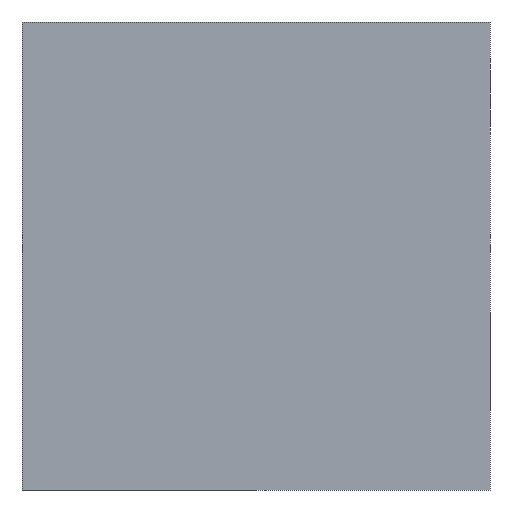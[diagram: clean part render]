
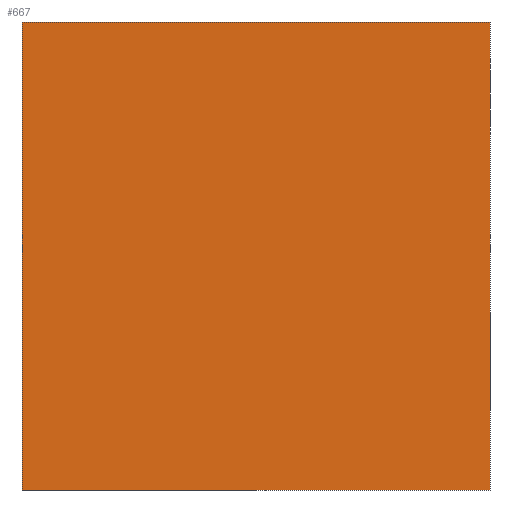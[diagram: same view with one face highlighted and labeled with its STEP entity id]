
A CAD part, left-side view. The second image highlights one B-rep face of the part: STEP entity #667.
In plain terms, the highlighted planar face has unit normal (-1, 0, 0).
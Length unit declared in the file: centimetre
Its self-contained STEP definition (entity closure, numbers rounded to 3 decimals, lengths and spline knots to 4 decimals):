
#16 = LINE ( 'NONE', #339, #569 ) ;
#18 = DIRECTION ( 'NONE',  ( 0., 0., -1. ) ) ;
#27 = DIRECTION ( 'NONE',  ( 0., 0., -1. ) ) ;
#42 = EDGE_CURVE ( 'NONE', #818, #1071, #904, .T. ) ;
#55 = VERTEX_POINT ( 'NONE', #1204 ) ;
#122 = EDGE_CURVE ( 'NONE', #1376, #55, #803, .T. ) ;
#130 = EDGE_CURVE ( 'NONE', #1071, #55, #149, .T. ) ;
#149 = LINE ( 'NONE', #1367, #1331 ) ;
#207 = ORIENTED_EDGE ( 'NONE', *, *, #130, .T. ) ;
#238 = DIRECTION ( 'NONE',  ( 0., -1., 0. ) ) ;
#243 = CARTESIAN_POINT ( 'NONE',  ( 0., 0., 1000. ) ) ;
#273 = FACE_OUTER_BOUND ( 'NONE', #296, .T. ) ;
#296 = EDGE_LOOP ( 'NONE', ( #207, #511, #798, #1273 ) ) ;
#339 = CARTESIAN_POINT ( 'NONE',  ( 0., 1000., 1000. ) ) ;
#366 = VECTOR ( 'NONE', #27, 100. ) ;
#441 = DIRECTION ( 'NONE',  ( 0., -1., 0. ) ) ;
#489 = EDGE_CURVE ( 'NONE', #818, #1376, #16, .T. ) ;
#511 = ORIENTED_EDGE ( 'NONE', *, *, #122, .F. ) ;
#569 = VECTOR ( 'NONE', #441, 100. ) ;
#604 = PLANE ( 'NONE',  #848 ) ;
#667 = ADVANCED_FACE ( 'NONE', ( #273 ), #604, .F. ) ;
#729 = CARTESIAN_POINT ( 'NONE',  ( 0., 1000., 1000. ) ) ;
#737 = DIRECTION ( 'NONE',  ( 1., 0., 0. ) ) ;
#779 = CARTESIAN_POINT ( 'NONE',  ( 0., 1000., 1000. ) ) ;
#798 = ORIENTED_EDGE ( 'NONE', *, *, #489, .F. ) ;
#803 = LINE ( 'NONE', #243, #366 ) ;
#818 = VERTEX_POINT ( 'NONE', #870 ) ;
#848 = AXIS2_PLACEMENT_3D ( 'NONE', #729, #737, #1160 ) ;
#870 = CARTESIAN_POINT ( 'NONE',  ( 0., 1000., 1000. ) ) ;
#904 = LINE ( 'NONE', #779, #1215 ) ;
#1071 = VERTEX_POINT ( 'NONE', #1380 ) ;
#1085 = CARTESIAN_POINT ( 'NONE',  ( 0., 0., 1000. ) ) ;
#1160 = DIRECTION ( 'NONE',  ( 0., 0., -1. ) ) ;
#1204 = CARTESIAN_POINT ( 'NONE',  ( 0., 0., 0. ) ) ;
#1215 = VECTOR ( 'NONE', #18, 100. ) ;
#1273 = ORIENTED_EDGE ( 'NONE', *, *, #42, .T. ) ;
#1331 = VECTOR ( 'NONE', #238, 100. ) ;
#1367 = CARTESIAN_POINT ( 'NONE',  ( 0., 1000., 0. ) ) ;
#1376 = VERTEX_POINT ( 'NONE', #1085 ) ;
#1380 = CARTESIAN_POINT ( 'NONE',  ( 0., 1000., 0. ) ) ;
